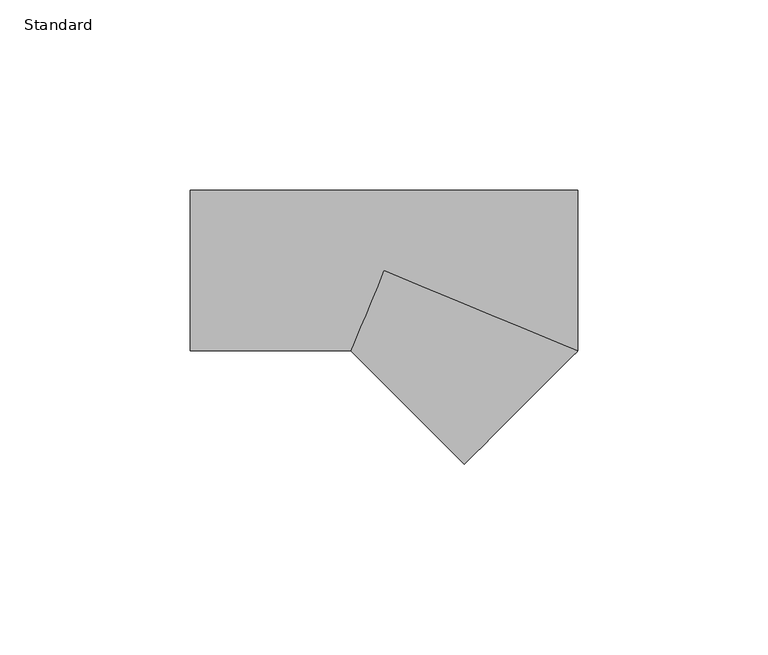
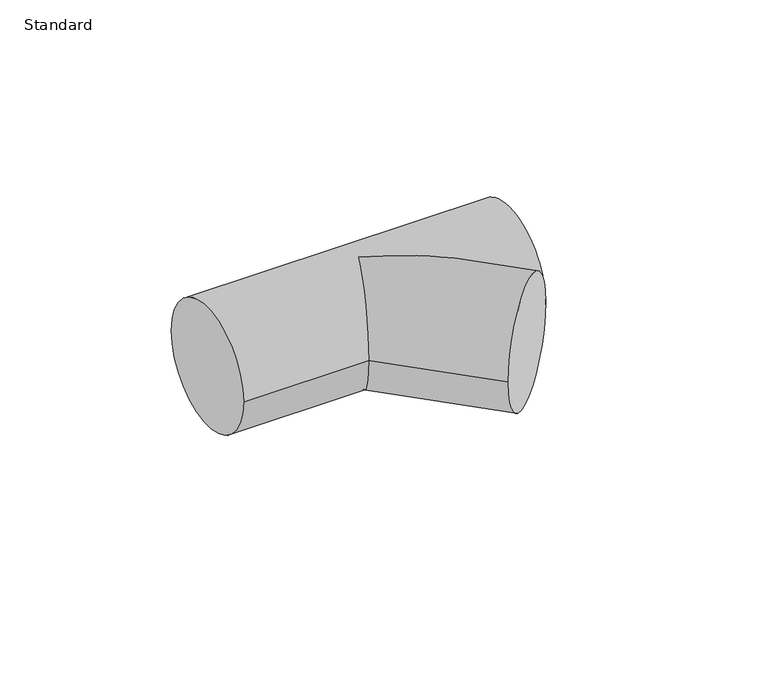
"""IFC4 building model written with IfcOpenShell, lengths in millimetres: pipe fitting geometry, Té - Générique : Standard."""

from ifc_helpers import new_model, si_unit, frame, origin, place, context, project, spatial, circle_curve, ellipse_curve, source, transform, mapped, element, save
from ifc_brep_helpers import plane_surface, cylinder_surface, advanced_brep


def standard_4aeb689a(model_context):
    return source(origin(), model_context, "Body", "AdvancedBrep", [
        advanced_brep(
        [(-50.9331566, -21.1, 0.0), (-50.9331566, 21.1, 0.0), (50.9331566, -21.1, 0.0), (50.9331566, 21.1, 0.0), (-8.7410644, -21.1, 0.0), (0.0, 0.0, 21.1), (0.0, 0.0, -21.1), (21.0904544, -50.9371099, 0.0)],
        [
            (0, 1, circle_curve(frame((-50.9331566, 0.0, 0.0), z_axis=(-1.0, 0.0, 0.0), x_axis=(0.0, 1.0, 0.0)), 21.1)),
            (1, 0, circle_curve(frame((-50.9331566, 0.0, 0.0), z_axis=(-1.0, 0.0, 0.0), x_axis=(0.0, 1.0, 0.0)), 21.1)),
            (2, 3, circle_curve(frame((50.9331566, 0.0, 0.0), z_axis=(1.0, 0.0, 0.0), x_axis=(0.0, 1.0, 0.0)), 21.1)),
            (3, 2, circle_curve(frame((50.9331566, 0.0, 0.0), z_axis=(1.0, 0.0, 0.0), x_axis=(0.0, 1.0, 0.0)), 21.1)),
            (0, 4),
            (4, 5, ellipse_curve(frame((0.0, 0.0, 0.0), z_axis=(-0.9238616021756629, 0.3827267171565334, 0.0), x_axis=(-0.3827267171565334, -0.9238616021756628, 0.0)), 22.8389187, 21.1)),
            (5, 2, ellipse_curve(frame((0.0, 0.0, 0.0), z_axis=(0.38272671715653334, 0.9238616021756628, 0.0), x_axis=(-0.9238616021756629, 0.3827267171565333, 0.0)), 55.1307214, 21.1)),
            (3, 1),
            (2, 6, ellipse_curve(frame((0.0, 0.0, 0.0), z_axis=(0.38272671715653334, 0.9238616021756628, 0.0), x_axis=(-0.9238616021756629, 0.3827267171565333, 0.0)), 55.1307214, 21.1)),
            (6, 4, ellipse_curve(frame((0.0, 0.0, 0.0), z_axis=(-0.9238616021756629, 0.3827267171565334, 0.0), x_axis=(-0.3827267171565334, -0.9238616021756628, 0.0)), 22.8389187, 21.1)),
            (7, 2, circle_curve(frame((36.0118055, -36.018555, 0.0), z_axis=(0.7070405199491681, -0.7071730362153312, 0.0), x_axis=(0.7071730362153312, 0.7070405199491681, 0.0)), 21.1)),
            (2, 7, circle_curve(frame((36.0118055, -36.018555, 0.0), z_axis=(0.7070405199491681, -0.7071730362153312, 0.0), x_axis=(0.7071730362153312, 0.7070405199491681, 0.0)), 21.1)),
            (4, 7),
        ],
        [
            plane_surface(frame((-50.9331566, 0.0, 0.0), z_axis=(-1.0, 0.0, 0.0), x_axis=(0.0, 0.0, 1.0))),
            plane_surface(frame((50.9331566, 0.0, 0.0), z_axis=(1.0, 0.0, 0.0), x_axis=(0.0, 0.0, 1.0))),
            cylinder_surface(frame((-50.9331566, 0.0, 0.0), z_axis=(-1.0, 0.0, 0.0), x_axis=(0.0, 1.0, 0.0)), 21.1),
            plane_surface(frame((36.0118055, -36.018555, 0.0), z_axis=(0.7070405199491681, -0.7071730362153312, 0.0), x_axis=(0.0, 0.0, 1.0))),
            cylinder_surface(frame((0.0, 0.0, 0.0), z_axis=(-0.7070405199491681, 0.7071730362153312, 0.0), x_axis=(0.7071730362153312, 0.7070405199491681, 0.0)), 21.1),
        ],
        [
            (0, [[1, 2]]),
            (1, [[3, 4]]),
            (2, [[-1, 5, 6, 7, -4, 8]]),
            (2, [[-2, -8, -3, 9, 10, -5]]),
            (3, [[11, 12]]),
            (4, [[-12, -7, -6, 13]]),
            (4, [[-11, -13, -10, -9]]),
        ],
    ),
    ])


if __name__ == "__main__":
    model = new_model("IFC4")
    model_context = context("Model", 3, world=origin())
    ifc_project = project(units=[si_unit("LENGTHUNIT", "METRE", prefix="MILLI")], contexts=[model_context])
    site = spatial("IfcSite", under=ifc_project)
    building = spatial("IfcBuilding", under=site)
    placement = place(None, origin())
    standard_shape = standard_4aeb689a(model_context)
    element("IfcPipeFitting", 1, ObjectType="Té - Générique : Standard", at=placement, inside=building, context=model_context, shape_type="MappedRepresentation", body=[
        mapped(standard_shape, transform((0.0, 0.0, 0.0), x_axis=(1.0, 0.0, 0.0), y_axis=(0.0, 1.0, 0.0), z_axis=(0.0, 0.0, 1.0))),
    ])
    save(model, "model.ifc")
